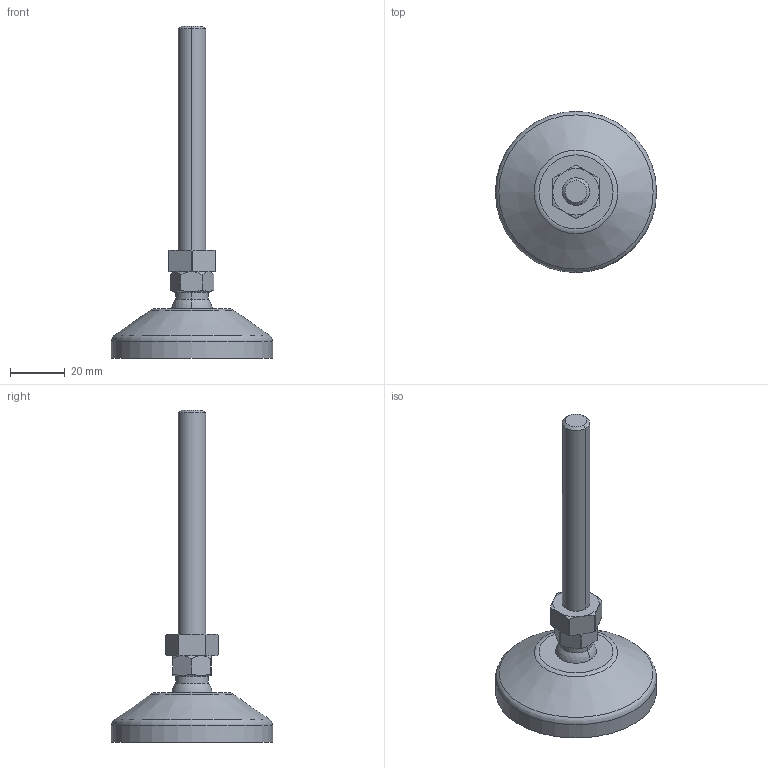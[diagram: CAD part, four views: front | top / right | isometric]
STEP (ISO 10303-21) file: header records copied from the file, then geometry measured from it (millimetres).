
FILE_DESCRIPTION(('STEP AP242'),'1');
FILE_NAME('TAPID60M10090PA.stp','2026-10-12T13:01:05',(' '),(' '),'Spatial InterOp 3D',' ',' ');
FILE_SCHEMA(('AP242_MANAGED_MODEL_BASED_3D_ENGINEERING_MIM_LF {1 0 10303 442 1 1 4}'));
Length unit declared in the file: millimetre
Products named in the file (4): TAPID60M10090PA; H DIN 934 M10 - Zn; fath_098dm10090m; Embase PA Ø60 (Ø15)
Assembly tree (3 placements, depth 2):
  TAPID60M10090PA
    H DIN 934 M10 - Zn
    fath_098dm10090m
    Embase PA Ø60 (Ø15)
Bounding box: 59 x 59 x 121.5 mm (x, y, z)
Volume: 38410.1 mm3; surface area: 13420.2 mm2
Topology: 3 solids, 3 shells, 81 faces, 189 edges, 113 vertices
Faces by surface type: cylinder 23, plane 20, torus 18, cone 15, sphere 5
Full cylindrical faces by diameter (mm): 8.5 x1, 15 x2, 51 x1, 59 x1
Entity records: 3424 total; most frequent: CARTESIAN_POINT 820, DIRECTION 382, ORIENTED_EDGE 342, EDGE_CURVE 171, AXIS2_PLACEMENT_3D 170, VERTEX_POINT 112, EDGE_LOOP 99, FACE_OUTER_BOUND 90
